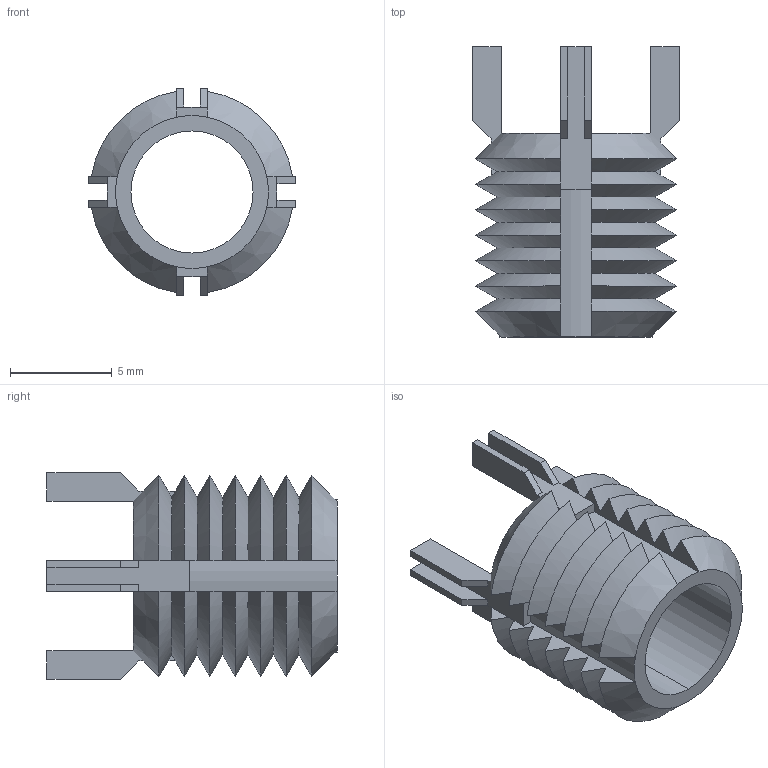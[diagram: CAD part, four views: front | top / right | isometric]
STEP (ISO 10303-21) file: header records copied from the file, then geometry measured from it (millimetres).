
FILE_DESCRIPTION (( 'STEP AP203' ), '1' );
FILE_NAME ('TR1520.65952.step', '2023-03-31T08:48:05', ( '' ), ( '' ), 'SwSTEP 2.0', 'SolidWorks 2019', '' );
FILE_SCHEMA (( 'CONFIG_CONTROL_DESIGN' ));
Length unit declared in the file: millimetre
Products named in the file (1): TR1520.65952
Bounding box: 10.15 x 14.25 x 10.15 mm (x, y, z)
Volume: 328.2 mm3; surface area: 869.4 mm2
Topology: 1 solids, 1 shells, 136 faces, 362 edges, 228 vertices
Faces by surface type: plane 74, cone 56, cylinder 6
Entity records: 4375 total; most frequent: CARTESIAN_POINT 1135, ORIENTED_EDGE 724, DIRECTION 572, EDGE_CURVE 362, VERTEX_POINT 228, AXIS2_PLACEMENT_3D 209, LINE 154, VECTOR 154
